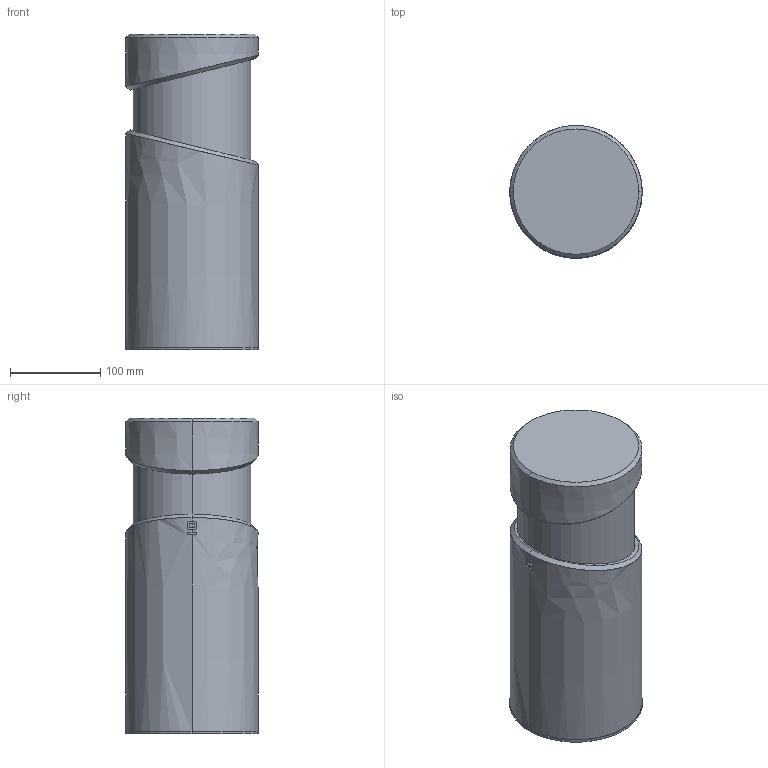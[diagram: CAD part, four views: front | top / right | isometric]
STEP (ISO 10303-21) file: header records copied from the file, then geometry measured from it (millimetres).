
FILE_DESCRIPTION(/* description */ (''),/* implementation_level */ '2;1');
FILE_NAME(/* name */ '744144_3d',/* time_stamp */ '2026-05-14T09:49:41+02:00',/* author */ (''),/* organization */ (''),/* preprocessor_version */ 'ST-DEVELOPER v19.2',/* originating_system */ 'Rhino 8.30',/* authorisation */ '');
FILE_SCHEMA (('CONFIG_CONTROL_DESIGN'));
Length unit declared in the file: millimetre
Products named in the file (1): Document
Bounding box: 147 x 147 x 350 mm (x, y, z)
Volume: 907965.9 mm3; surface area: 559745.9 mm2
Topology: 2 solids, 21 shells, 92 faces, 241 edges, 168 vertices
Faces by surface type: plane 46, cylinder 32, bspline 14
Entity records: 5573 total; most frequent: CARTESIAN_POINT 2921, ORIENTED_EDGE 400, EDGE_CURVE 241, DIRECTION 184, B_SPLINE_CURVE_WITH_KNOTS 179, VERTEX_POINT 168, AXIS2_PLACEMENT_3D 131, EDGE_LOOP 101
